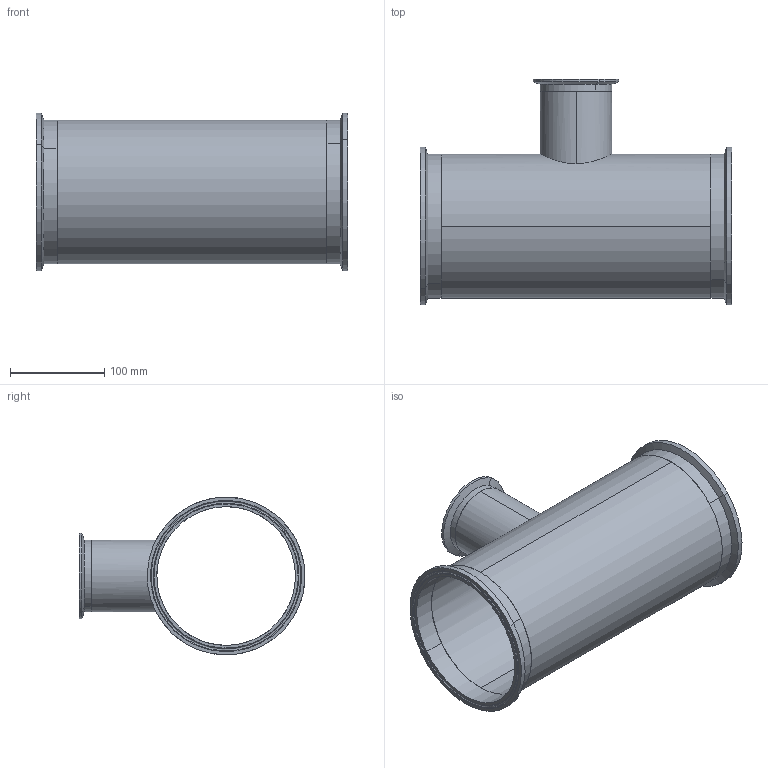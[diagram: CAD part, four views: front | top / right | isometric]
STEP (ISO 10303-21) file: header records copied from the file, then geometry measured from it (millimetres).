
FILE_DESCRIPTION (( 'STEP AP203' ), '1' );
FILE_NAME ('EG7R 6.0X3.0.STEP', '2021-10-25T15:23:03', ( '' ), ( '' ), 'SwSTEP 2.0', 'SolidWorks 2021', '' );
FILE_SCHEMA (( 'CONFIG_CONTROL_DESIGN' ));
Length unit declared in the file: inch
Products named in the file (4): V7WR 6.0X3.0; EG7R 6.0X3.0; EG2CS6.0; EG2CS3.0
Assembly tree (4 placements, depth 2):
  EG7R 6.0X3.0
    V7WR 6.0X3.0
    EG2CS6.0  x2
    EG2CS3.0
Bounding box: 330.2 x 238.97 x 166.79 mm (x, y, z)
Volume: 420767.3 mm3; surface area: 368547 mm2
Topology: 4 solids, 4 shells, 62 faces, 126 edges, 76 vertices
Faces by surface type: cylinder 26, torus 18, plane 12, cone 6
Entity records: 1942 total; most frequent: CARTESIAN_POINT 478, DIRECTION 256, ORIENTED_EDGE 184, AXIS2_PLACEMENT_3D 116, EDGE_CURVE 92, CIRCLE 64, EDGE_LOOP 56, VERTEX_POINT 56
